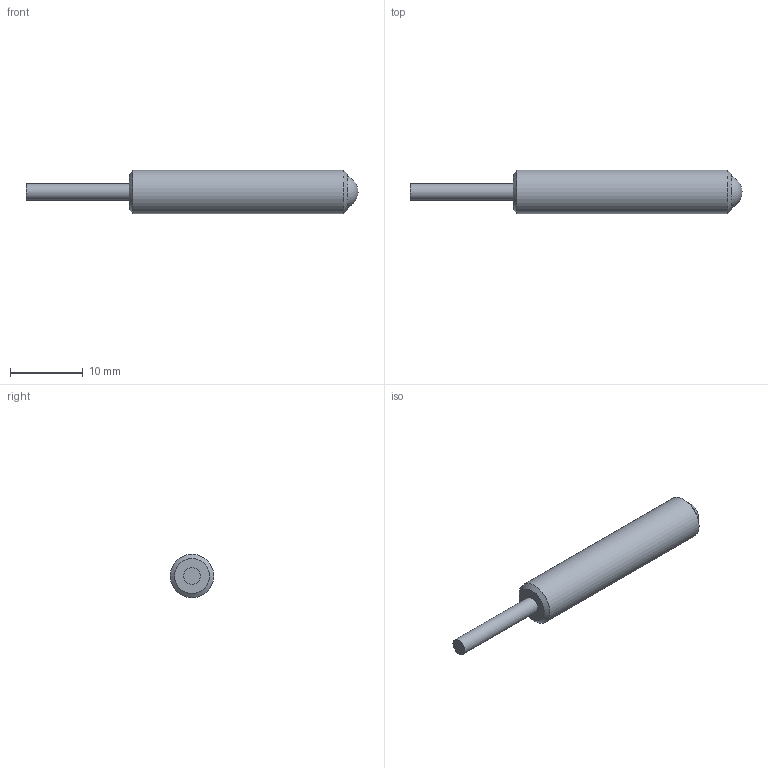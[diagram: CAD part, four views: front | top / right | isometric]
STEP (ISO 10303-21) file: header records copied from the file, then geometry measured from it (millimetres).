
FILE_DESCRIPTION(/* description */ ('STEP AP203'),/* implementation_level */ '2;1');
FILE_NAME(/* name */ 'P_MZ_FO_0121',/* time_stamp */ '2023-03-03T13:04:32+01:00',/* author */ ('License CC BY-ND 4.0'),/* organization */ ('CADENAS'),/* preprocessor_version */ 'ST-DEVELOPER v18.102',/* originating_system */ 'PARTsolutions',/* authorisation */ ' ');
FILE_SCHEMA (('CONFIG_CONTROL_DESIGN'));
Length unit declared in the file: millimetre
Products named in the file (1): P_MZ_FO_0121
Bounding box: 45.63 x 6 x 6 mm (x, y, z)
Volume: 914.1 mm3; surface area: 718.3 mm2
Topology: 1 solids, 1 shells, 8 faces, 14 edges, 9 vertices
Faces by surface type: plane 3, cylinder 2, cone 2, sphere 1
Full cylindrical faces by diameter (mm): 2.3 x1, 6 x1
Entity records: 234 total; most frequent: DIRECTION 32, CARTESIAN_POINT 23, AXIS2_PLACEMENT_3D 16, ORIENTED_EDGE 14, EDGE_LOOP 14, FACE_BOUND 14, STYLED_ITEM 8, PRESENTATION_STYLE_ASSIGNMENT 8
